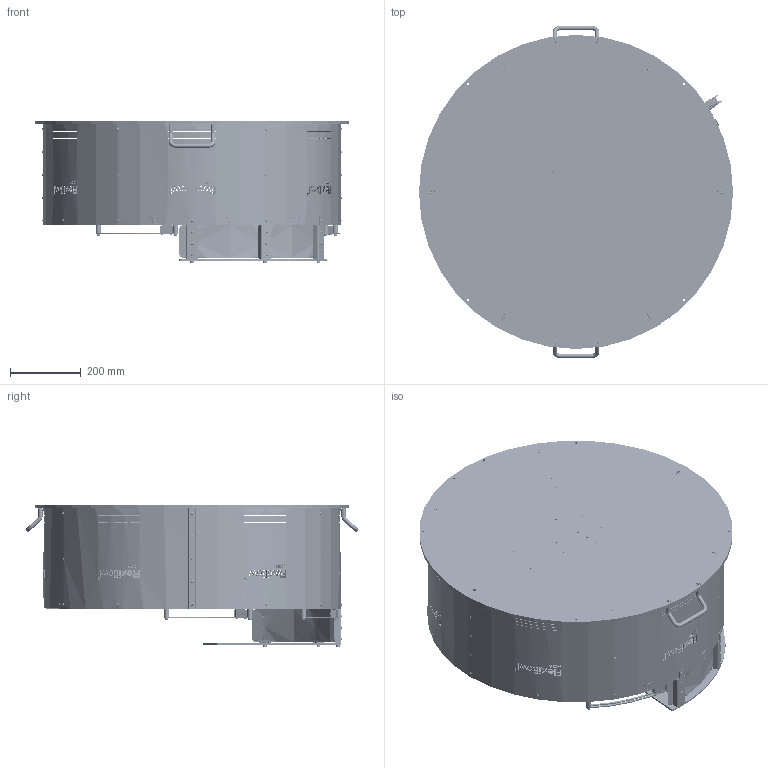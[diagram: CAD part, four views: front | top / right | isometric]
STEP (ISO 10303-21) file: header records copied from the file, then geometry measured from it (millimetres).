
FILE_DESCRIPTION (( 'STEP AP214' ), '1' );
FILE_NAME ('FB800CC Quick emptying.STEP', '2021-09-09T14:02:38', ( '' ), ( '' ), 'SwSTEP 2.0', 'SolidWorks 2020', '' );
FILE_SCHEMA (( 'AUTOMOTIVE_DESIGN' ));
Length unit declared in the file: millimetre
Products named in the file (103): CM000031; PD000137; Copia di connector_amet-15rs^CE000302; CM000237; CM000583; CM000114; PD001063; CM000027; PD001736; CM000058; CM000006; CM000686_001; CE000030; PD001426; PD001101; CM000086; CM000424; CM000024; Copia di connector_a-ds_25_pp-f^CE000302; CM000015; CM000166; Copia di CE000327^CE000327; PD001119; CM000099; CM000130; CM000044; CM000034; PD001743; CE000302; PD000043; PD001571; CM000642; CE000325; CE000005; CM000001; CM000048; CM000686_002; PD001165; CM000091; PD002028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
Assembly tree (339 placements, depth 3):
  FB800CC Quick emptying
    CM000032  x4
    CM000031  x9
    CM000170  x6
    CM000029  x4
    CM000034  x4
    CM000018  x4
    CM000048  x30
    CM000114  x4
    CM000478  x9
    CM000050  x3
    CM000166  x10
    CM000642  x4
    CM000071  x16
    CM000583
    CM000028
    CM000021  x16
    CM000212  x10
    CM000035  x6
    CM000027  x6
    CM000197
    CM000058
    CM000064  x3
    CM000051  x6
    CM000091  x2
    CM000086  x15
    CM000026  x18
    CM000044  x2
    CM000025  x10
    CM000043  x2
    CM000024  x20
    CM000006  x4
    CM000688  x4
    CM000130  x6
    CM000687  x4
    PD001086
    CM000001  x2
    PD001440  x6
    PD001640
    PD001743
    PD001736  x2
    PD001063
    PD001585  x3
    PD001583  x3
    PD001087
    PD001101
    PD000043  x4
    PD001123  x2
    PD001119  x2
    PD001426
    CM000374  x4
    PD001165
    PD001428
    PD001356
    CM000234
    PD001305
    CM000237
    PD000709
    PD001360_FB800
    CE000007
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Bounding box: 890 x 940.65 x 402.5 mm (x, y, z)
Volume: 15214704.7 mm3; surface area: 6144736 mm2
Topology: 369 solids, 388 shells, 15742 faces, 39336 edges, 24772 vertices
Faces by surface type: plane 7535, cylinder 3459, cone 2430, bspline 1483, torus 773, sphere 62
Entity records: 478217 total; most frequent: CARTESIAN_POINT 178055, ORIENTED_EDGE 52968, DIRECTION 43028, EDGE_CURVE 26686, VERTEX_POINT 17618, AXIS2_PLACEMENT_3D 15312, LINE 12404, VECTOR 12404
